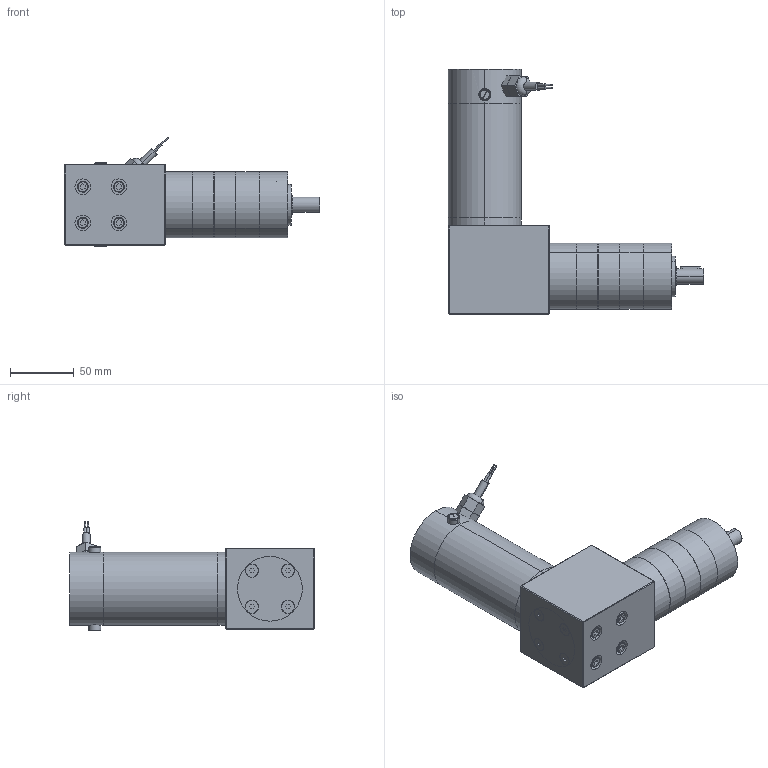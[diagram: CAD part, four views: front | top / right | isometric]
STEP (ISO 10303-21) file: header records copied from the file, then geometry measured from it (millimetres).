
FILE_DESCRIPTION (( 'STEP AP203' ), '1' );
FILE_NAME ('d22490gra4.step', '2022-05-11T15:43:28', ( '' ), ( '' ), 'SwSTEP 2.0', 'SolidWorks 2017', '' );
FILE_SCHEMA (( 'CONFIG_CONTROL_DESIGN' ));
Length unit declared in the file: millimetre
Products named in the file (1): d22490gra4
Bounding box: 200.12 x 192.07 x 86.07 mm (x, y, z)
Volume: 863562.5 mm3; surface area: 128397 mm2
Topology: 24 solids, 24 shells, 604 faces, 1313 edges, 806 vertices
Faces by surface type: plane 270, cylinder 226, cone 97, torus 7, sphere 4
Entity records: 16696 total; most frequent: DIRECTION 3049, CARTESIAN_POINT 3034, ORIENTED_EDGE 2578, EDGE_CURVE 1289, AXIS2_PLACEMENT_3D 1171, VERTEX_POINT 806, EDGE_LOOP 719, VECTOR 707
